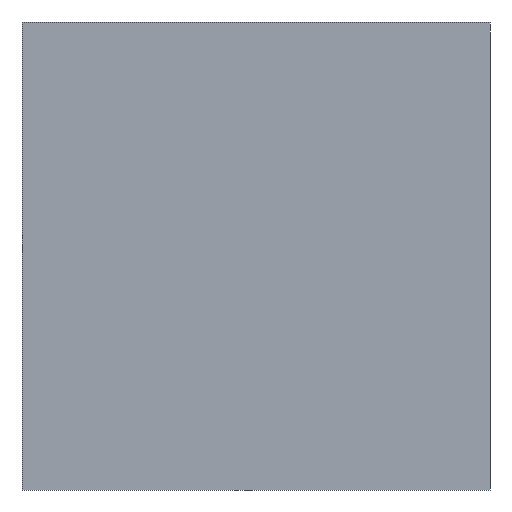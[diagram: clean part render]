
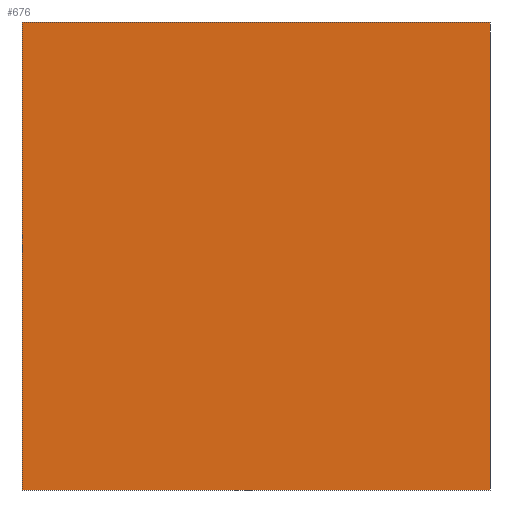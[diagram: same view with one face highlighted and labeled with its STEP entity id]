
A CAD part, front view. The second image highlights one B-rep face of the part: STEP entity #676.
In plain terms, the highlighted planar face has unit normal (0, -1, 0).
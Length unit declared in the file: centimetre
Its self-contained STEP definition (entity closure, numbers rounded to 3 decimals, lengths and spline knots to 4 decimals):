
#9 = LINE ( 'NONE', #210, #669 ) ;
#28 = EDGE_CURVE ( 'NONE', #95, #654, #622, .T. ) ;
#34 = DIRECTION ( 'NONE',  ( 0., 0., 1. ) ) ;
#71 = ORIENTED_EDGE ( 'NONE', *, *, #657, .F. ) ;
#74 = DIRECTION ( 'NONE',  ( 1., 0., 0. ) ) ;
#76 = FACE_OUTER_BOUND ( 'NONE', #165, .T. ) ;
#95 = VERTEX_POINT ( 'NONE', #460 ) ;
#107 = DIRECTION ( 'NONE',  ( 0., 0., -1. ) ) ;
#144 = VERTEX_POINT ( 'NONE', #638 ) ;
#150 = CARTESIAN_POINT ( 'NONE',  ( 0., 0., 1000. ) ) ;
#165 = EDGE_LOOP ( 'NONE', ( #635, #504, #71, #403 ) ) ;
#184 = DIRECTION ( 'NONE',  ( 0., 1., 0. ) ) ;
#188 = CARTESIAN_POINT ( 'NONE',  ( 0., 0., 0. ) ) ;
#192 = CARTESIAN_POINT ( 'NONE',  ( 0., 0., 1000. ) ) ;
#210 = CARTESIAN_POINT ( 'NONE',  ( 1000., 0., 1000. ) ) ;
#212 = CARTESIAN_POINT ( 'NONE',  ( 0., 0., 1000. ) ) ;
#213 = EDGE_CURVE ( 'NONE', #144, #597, #9, .T. ) ;
#229 = PLANE ( 'NONE',  #265 ) ;
#237 = VECTOR ( 'NONE', #413, 100. ) ;
#243 = EDGE_CURVE ( 'NONE', #654, #597, #438, .T. ) ;
#265 = AXIS2_PLACEMENT_3D ( 'NONE', #192, #184, #34 ) ;
#332 = CARTESIAN_POINT ( 'NONE',  ( 0., 0., 0. ) ) ;
#397 = VECTOR ( 'NONE', #74, 100. ) ;
#403 = ORIENTED_EDGE ( 'NONE', *, *, #28, .T. ) ;
#407 = DIRECTION ( 'NONE',  ( 1., 0., 0. ) ) ;
#413 = DIRECTION ( 'NONE',  ( 0., 0., -1. ) ) ;
#438 = LINE ( 'NONE', #188, #533 ) ;
#460 = CARTESIAN_POINT ( 'NONE',  ( 0., 0., 1000. ) ) ;
#467 = CARTESIAN_POINT ( 'NONE',  ( 1000., 0., 0. ) ) ;
#504 = ORIENTED_EDGE ( 'NONE', *, *, #213, .F. ) ;
#533 = VECTOR ( 'NONE', #407, 100. ) ;
#547 = LINE ( 'NONE', #212, #397 ) ;
#597 = VERTEX_POINT ( 'NONE', #467 ) ;
#622 = LINE ( 'NONE', #150, #237 ) ;
#635 = ORIENTED_EDGE ( 'NONE', *, *, #243, .T. ) ;
#638 = CARTESIAN_POINT ( 'NONE',  ( 1000., 0., 1000. ) ) ;
#654 = VERTEX_POINT ( 'NONE', #332 ) ;
#657 = EDGE_CURVE ( 'NONE', #95, #144, #547, .T. ) ;
#669 = VECTOR ( 'NONE', #107, 100. ) ;
#676 = ADVANCED_FACE ( 'NONE', ( #76 ), #229, .F. ) ;
